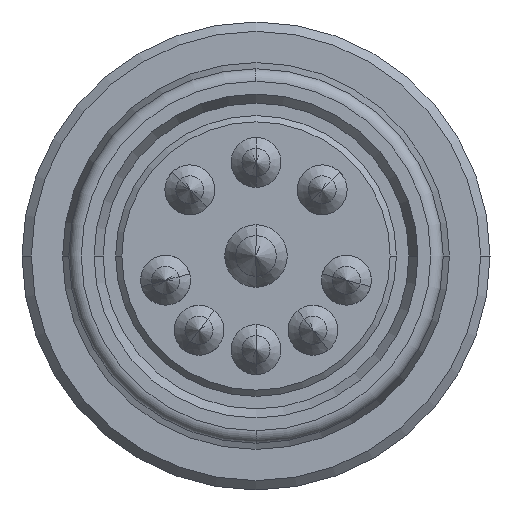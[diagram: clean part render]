
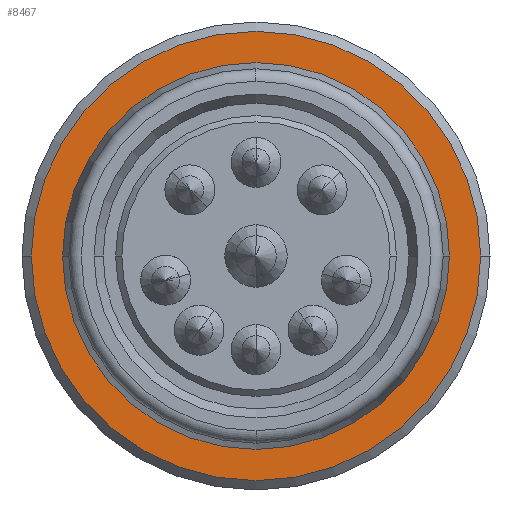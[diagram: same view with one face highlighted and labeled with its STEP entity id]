
A CAD part, left-side view. The second image highlights one B-rep face of the part: STEP entity #8467.
In plain terms, the highlighted planar face has unit normal (-1, 0, 0).
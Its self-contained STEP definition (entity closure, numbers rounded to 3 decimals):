
#2297=CARTESIAN_POINT('',(-0.2,-7.2,0.0));
#2298=VERTEX_POINT('',#2297);
#2305=CARTESIAN_POINT('',(-0.2,7.2,0.));
#2306=VERTEX_POINT('',#2305);
#2307=CARTESIAN_POINT('',(-0.2,0.0,0.0));
#2308=DIRECTION('',(1.0,0.0,0.0));
#2309=DIRECTION('',(0.0,-1.0,0.0));
#2310=AXIS2_PLACEMENT_3D('',#2307,#2308,#2309);
#2311=CIRCLE('',#2310,7.2);
#2312=EDGE_CURVE('',#2298,#2306,#2311,.T.);
#2331=CARTESIAN_POINT('',(-0.2,-6.,0.0));
#2332=VERTEX_POINT('',#2331);
#2348=CARTESIAN_POINT('',(-0.2,6.,0.));
#2349=VERTEX_POINT('',#2348);
#2356=CARTESIAN_POINT('',(-0.2,0.0,0.0));
#2357=DIRECTION('',(1.0,0.0,0.0));
#2358=DIRECTION('',(0.0,-1.0,0.0));
#2359=AXIS2_PLACEMENT_3D('',#2356,#2357,#2358);
#2360=CIRCLE('',#2359,6.);
#2361=EDGE_CURVE('',#2332,#2349,#2360,.T.);
#8436=CARTESIAN_POINT('',(-0.2,0.0,0.0));
#8437=DIRECTION('',(1.0,0.0,0.0));
#8438=DIRECTION('',(0.0,-1.0,0.0));
#8439=AXIS2_PLACEMENT_3D('',#8436,#8437,#8438);
#8440=CIRCLE('',#8439,6.);
#8441=EDGE_CURVE('',#2349,#2332,#8440,.T.);
#8448=CARTESIAN_POINT('',(-0.2,-6.6,0.0));
#8449=DIRECTION('',(-1.0,0.0,0.0));
#8450=DIRECTION('',(0.0,0.0,1.0));
#8451=AXIS2_PLACEMENT_3D('',#8448,#8449,#8450);
#8452=PLANE('',#8451);
#8453=ORIENTED_EDGE('',*,*,#2312,.F.);
#8454=CARTESIAN_POINT('',(-0.2,0.0,0.0));
#8455=DIRECTION('',(1.0,0.0,0.0));
#8456=DIRECTION('',(0.0,-1.0,0.0));
#8457=AXIS2_PLACEMENT_3D('',#8454,#8455,#8456);
#8458=CIRCLE('',#8457,7.2);
#8459=EDGE_CURVE('',#2306,#2298,#8458,.T.);
#8460=ORIENTED_EDGE('',*,*,#8459,.F.);
#8461=EDGE_LOOP('',(#8453,#8460));
#8462=FACE_OUTER_BOUND('',#8461,.T.);
#8463=ORIENTED_EDGE('',*,*,#2361,.T.);
#8464=ORIENTED_EDGE('',*,*,#8441,.T.);
#8465=EDGE_LOOP('',(#8463,#8464));
#8466=FACE_BOUND('',#8465,.T.);
#8467=ADVANCED_FACE('',(#8462,#8466),#8452,.T.);
